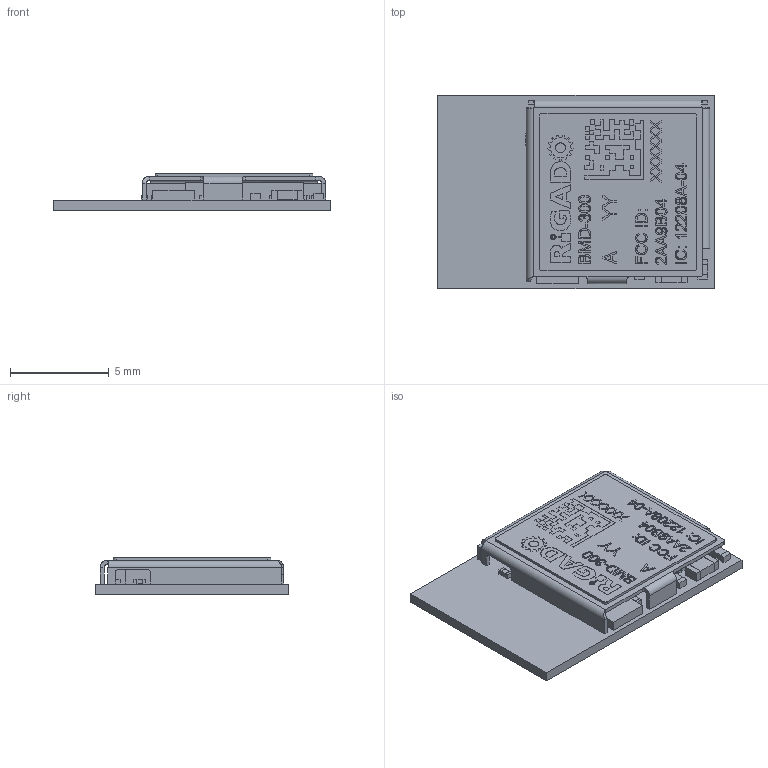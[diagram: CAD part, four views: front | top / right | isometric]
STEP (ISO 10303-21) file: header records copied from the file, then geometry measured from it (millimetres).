
FILE_DESCRIPTION (( 'STEP AP214' ), '1' );
FILE_NAME ('BMD-300_assembly.STEP', '2015-11-23T21:52:21', ( '' ), ( '' ), 'SwSTEP 2.0', 'SolidWorks 2015', '' );
FILE_SCHEMA (( 'AUTOMOTIVE_DESIGN' ));
Length unit declared in the file: millimetre
Products named in the file (1): BMD-300_assembly
Bounding box: 14 x 9.8 x 1.84 mm (x, y, z)
Volume: 134.8 mm3; surface area: 777.7 mm2
Topology: 20 solids, 20 shells, 1654 faces, 4319 edges, 2868 vertices
Faces by surface type: plane 1066, bspline 565, cylinder 23
Entity records: 71585 total; most frequent: CARTESIAN_POINT 16370, ORIENTED_EDGE 8638, DIRECTION 5386, EDGE_CURVE 4319, LINE 3142, VECTOR 3142, VERTEX_POINT 2868, EDGE_LOOP 1817
